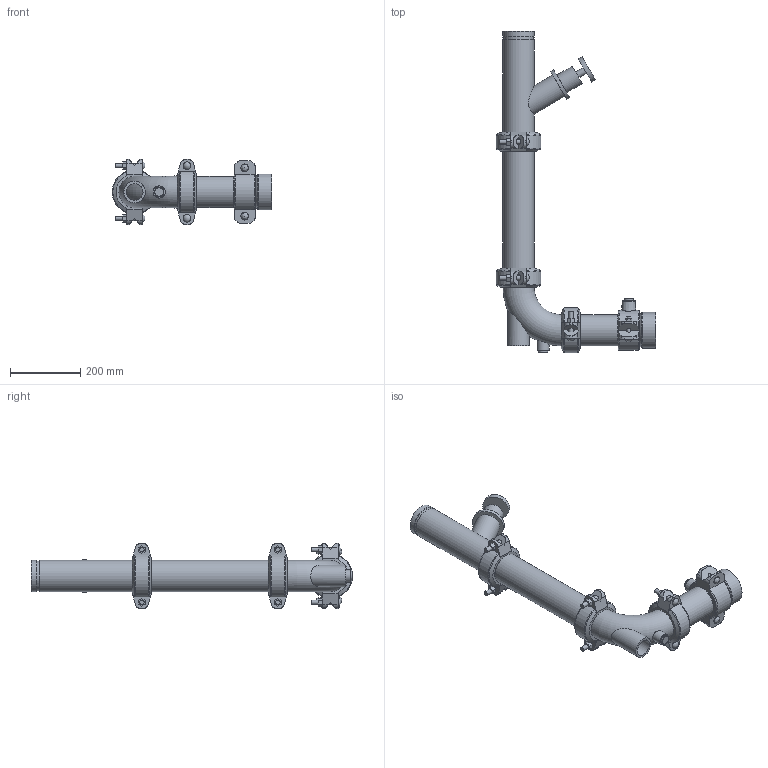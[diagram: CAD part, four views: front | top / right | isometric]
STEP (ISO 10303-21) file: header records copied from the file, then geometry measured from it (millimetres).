
FILE_DESCRIPTION(/* description */ ('VIC RVI SINGLE COIL AHU DROP LOW PROFILE SERIES 385I (OGSxFPT)','CAx-IF Rec.Pracs.---Representation and Presentation of Product Manufacturing Information (PMI)---4.0---2014-10-13'),/* implementation_level */ '2;1');
FILE_NAME(/* name */ 'C:\Users\kkamble\AppData\Roaming\Autodesk\ApplicationPlugins\Victaulic.Temp\A812\Victaulic_IPS_RVI_Single Coil_Low Profile_Series 385I (OGSxFPT)_03.0x03.0 (80x80).stp',/* time_stamp */ '2021-03-17T13:02:21+06:00',/* author */ ('Vjadhav'),/* organization */ ('Victaulic'),/* preprocessor_version */ 'ST-DEVELOPER v17.2',/* originating_system */ 'Autodesk Inventor 2019',/* authorisation */ '');
FILE_SCHEMA (('AP242_MANAGED_MODEL_BASED_3D_ENGINEERING_MIM_LF { 1 0 10303 442 1 1 4 }'));
Length unit declared in the file: inch
Products named in the file (8): 385I-03.0x03.0; 080-03.0; 072-03.0x0.75; Pipe-03.0; 100G-03.0; Pipe_2_(11 9/16")-03.0; 177N-03.0; 789-03.0
Assembly tree (9 placements, depth 2):
  385I-03.0x03.0
    080-03.0
    072-03.0x0.75
    Pipe-03.0
    177N-03.0  x3
    100G-03.0
    Pipe_2_(11 9/16")-03.0
    789-03.0
Bounding box: 454.15 x 914.4 x 185.18 mm (x, y, z)
Volume: 4076706.2 mm3; surface area: 994226 mm2
Topology: 9 solids, 9 shells, 456 faces, 1260 edges, 843 vertices
Faces by surface type: plane 256, cylinder 149, torus 24, cone 18, sphere 6, bspline 3
Full cylindrical faces by diameter (mm): 10.16 x4, 12.7 x6, 14.605 x2, 19.05 x1, 20.93 x2, 21.59 x2, 22.225 x6, 26.67 x3, 34.29 x1, 48.26 x1, 57.15 x1, 60.96 x1, 69.85 x1, 76.2 x4, 77.927 x6, 84.938 x9, 88.9 x21, 92.05 x1, 101.6 x1
Entity records: 10185 total; most frequent: CARTESIAN_POINT 2191, DIRECTION 1642, ORIENTED_EDGE 1510, EDGE_CURVE 755, AXIS2_PLACEMENT_3D 646, VERTEX_POINT 513, LINE 350, VECTOR 350
